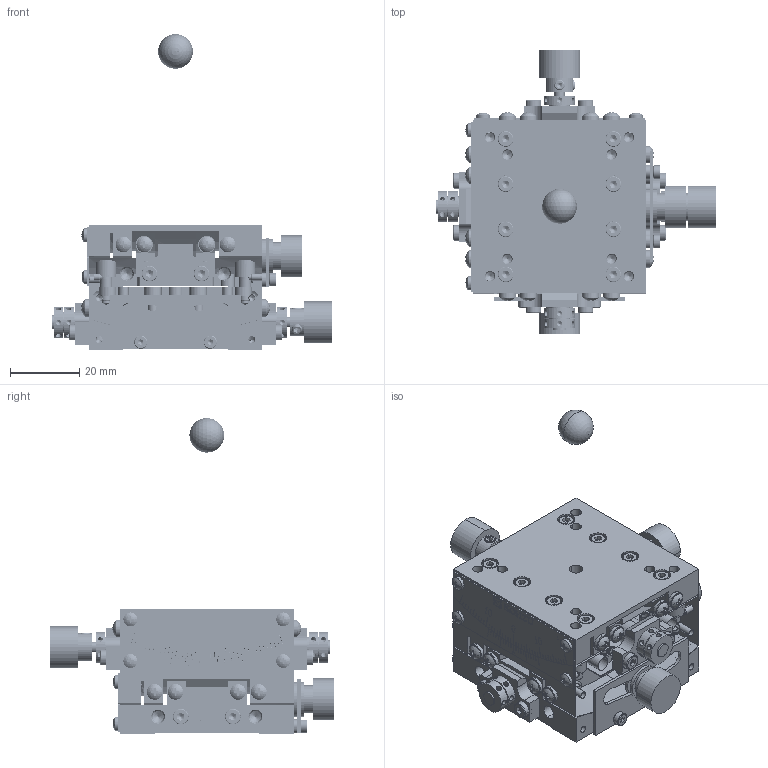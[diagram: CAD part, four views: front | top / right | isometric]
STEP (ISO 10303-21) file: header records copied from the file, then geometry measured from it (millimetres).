
FILE_DESCRIPTION (( 'STEP AP203' ), '1' );
FILE_NAME ('SH05B-RS-RRR.STEP', '2016-09-28T08:20:19', ( '' ), ( '' ), 'SwSTEP 2.0', 'SolidWorks 2011', '' );
FILE_SCHEMA (( 'CONFIG_CONTROL_DESIGN' ));
Products named in the file (6): SH05B-RS-RRR; base-7; rotation-center-7; upper-table-3; lower-table-3; SH05B-RS-RRR.sldasm-Part-1
Assembly tree (4 placements, depth 2):
  SH05B-RS-RRR
    base-7
    rotation-center-7
    lower-table-3
    upper-table-3
  SH05B-RS-RRR.sldasm-Part-1
Bounding box: 80.5 x 81.5 x 91 mm (x, y, z)
Volume: 86728.2 mm3; surface area: 52140.7 mm2
Topology: 4 solids, 80 shells, 3991 faces, 9676 edges, 5821 vertices
Faces by surface type: plane 1963, cylinder 1277, cone 529, torus 160, sphere 50, bspline 12
Entity records: 123205 total; most frequent: CARTESIAN_POINT 29144, DIRECTION 20337, ORIENTED_EDGE 18782, EDGE_CURVE 9391, AXIS2_PLACEMENT_3D 7559, VERTEX_POINT 5818, VECTOR 5219, LINE 5219
